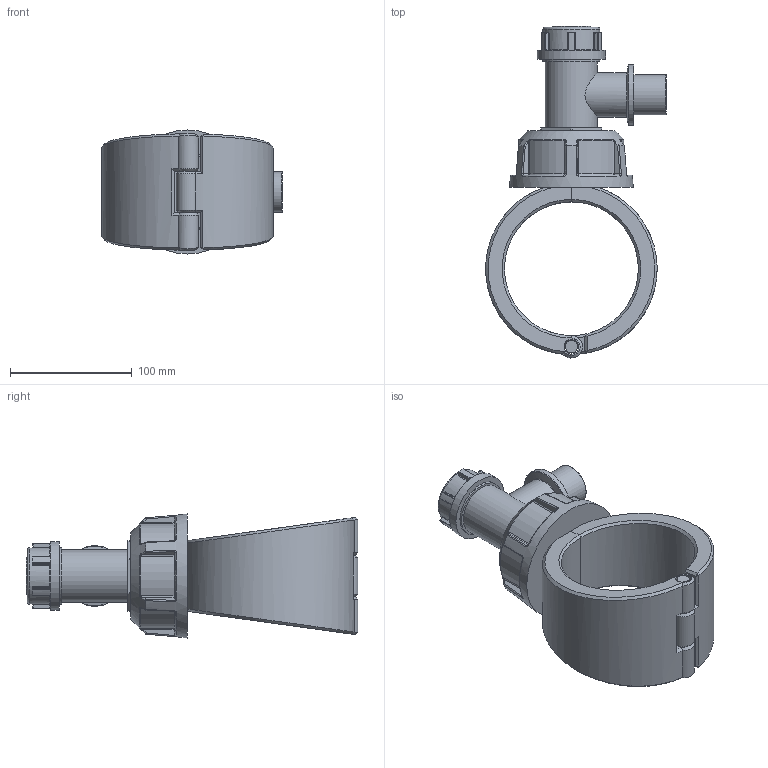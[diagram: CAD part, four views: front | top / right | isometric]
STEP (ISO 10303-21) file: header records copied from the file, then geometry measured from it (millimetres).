
FILE_DESCRIPTION(/* description */ ('Plassadle Tapper Male 110x1'''''),/* implementation_level */ '2;1');
FILE_NAME(/* name */ 'C:\Users\comp2\Dropbox\99-16-3568-Processing\Mechanical Fittings\1631R\stp\1631R0110010.stp',/* time_stamp */ '2022-02-03T12:06:26+00:00',/* author */ ('comp2'),/* organization */ (''),/* preprocessor_version */ 'ST-DEVELOPER v17.2',/* originating_system */ 'Autodesk Inventor 2019',/* authorisation */ '');
FILE_SCHEMA (('AUTOMOTIVE_DESIGN { 1 0 10303 214 3 1 1 }'));
Length unit declared in the file: millimetre
Products named in the file (1): 1631R0110010
Bounding box: 148.44 x 273 x 102 mm (x, y, z)
Volume: 940669.4 mm3; surface area: 135409 mm2
Topology: 4 solids, 4 shells, 341 faces, 833 edges, 509 vertices
Faces by surface type: cylinder 110, plane 82, bspline 70, torus 40, sphere 24, cone 15
Full cylindrical faces by diameter (mm): 10.12 x1, 12.12 x3, 24.937 x1, 30.6 x1, 33.249 x1, 36.574 x1, 42.84 x1, 46.84 x2, 49.873 x1, 56.1 x1
Entity records: 13154 total; most frequent: CARTESIAN_POINT 5516, ORIENTED_EDGE 1666, DIRECTION 1492, EDGE_CURVE 833, AXIS2_PLACEMENT_3D 627, VERTEX_POINT 509, EDGE_LOOP 356, FACE_OUTER_BOUND 341
